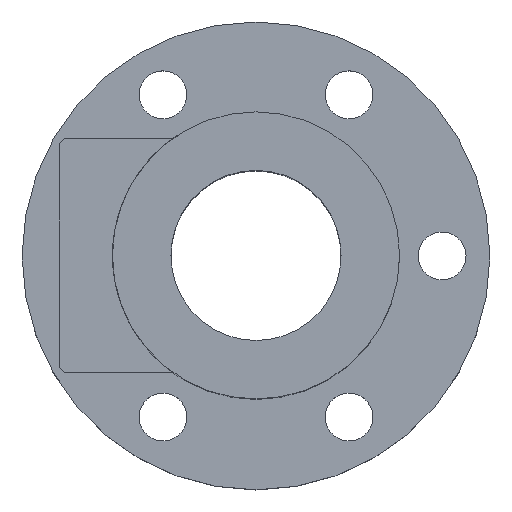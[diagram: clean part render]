
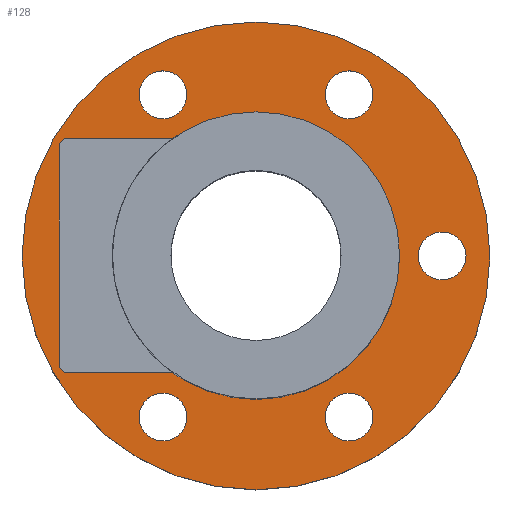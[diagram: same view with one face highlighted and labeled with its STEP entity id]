
A CAD part, top view. The second image highlights one B-rep face of the part: STEP entity #128.
In plain terms, the highlighted planar face has unit normal (0, 0, 1).
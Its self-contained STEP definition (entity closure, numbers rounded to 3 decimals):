
#97=PLANE('',#515);
#112=FACE_OUTER_BOUND('',#251,.T.);
#128=ADVANCED_FACE('',(#203,#204,#205,#112,#206,#207,#208),#97,.T.);
#203=FACE_BOUND('',#248,.T.);
#204=FACE_BOUND('',#249,.T.);
#205=FACE_BOUND('',#250,.T.);
#206=FACE_BOUND('',#252,.T.);
#207=FACE_BOUND('',#253,.T.);
#208=FACE_BOUND('',#254,.T.);
#248=EDGE_LOOP('',(#311));
#249=EDGE_LOOP('',(#312));
#250=EDGE_LOOP('',(#313));
#251=EDGE_LOOP('',(#314));
#252=EDGE_LOOP('',(#315));
#253=EDGE_LOOP('',(#316));
#254=EDGE_LOOP('',(#317));
#311=ORIENTED_EDGE('',*,*,#437,.F.);
#312=ORIENTED_EDGE('',*,*,#438,.F.);
#313=ORIENTED_EDGE('',*,*,#432,.F.);
#314=ORIENTED_EDGE('',*,*,#439,.T.);
#315=ORIENTED_EDGE('',*,*,#440,.F.);
#316=ORIENTED_EDGE('',*,*,#441,.F.);
#317=ORIENTED_EDGE('',*,*,#442,.F.);
#394=VERTEX_POINT('',#694);
#399=VERTEX_POINT('',#705);
#400=VERTEX_POINT('',#707);
#401=VERTEX_POINT('',#709);
#402=VERTEX_POINT('',#711);
#403=VERTEX_POINT('',#713);
#404=VERTEX_POINT('',#715);
#432=EDGE_CURVE('',#394,#394,#476,.T.);
#437=EDGE_CURVE('',#399,#399,#479,.T.);
#438=EDGE_CURVE('',#400,#400,#480,.T.);
#439=EDGE_CURVE('',#401,#401,#481,.T.);
#440=EDGE_CURVE('',#402,#402,#482,.T.);
#441=EDGE_CURVE('',#403,#403,#483,.T.);
#442=EDGE_CURVE('',#404,#404,#484,.T.);
#476=CIRCLE('',#505,27.);
#479=CIRCLE('',#509,4.5);
#480=CIRCLE('',#510,4.5);
#481=CIRCLE('',#511,44.);
#482=CIRCLE('',#512,4.5);
#483=CIRCLE('',#513,4.5);
#484=CIRCLE('',#514,4.5);
#505=AXIS2_PLACEMENT_3D('',#693,#564,#565);
#509=AXIS2_PLACEMENT_3D('',#704,#574,#575);
#510=AXIS2_PLACEMENT_3D('',#706,#576,#577);
#511=AXIS2_PLACEMENT_3D('',#708,#578,#579);
#512=AXIS2_PLACEMENT_3D('',#710,#580,#581);
#513=AXIS2_PLACEMENT_3D('',#712,#582,#583);
#514=AXIS2_PLACEMENT_3D('',#714,#584,#585);
#515=AXIS2_PLACEMENT_3D('',#716,#586,#587);
#564=DIRECTION('',(0.,0.,1.));
#565=DIRECTION('',(1.,0.,0.));
#574=DIRECTION('',(0.,0.,1.));
#575=DIRECTION('',(-0.5,-0.866,0.));
#576=DIRECTION('',(0.,0.,1.));
#577=DIRECTION('',(0.5,0.866,0.));
#578=DIRECTION('',(0.,0.,1.));
#579=DIRECTION('',(1.,0.,0.));
#580=DIRECTION('',(0.,0.,1.));
#581=DIRECTION('',(1.,0.,0.));
#582=DIRECTION('',(0.,0.,1.));
#583=DIRECTION('',(-1.,0.,0.));
#584=DIRECTION('',(0.,0.,1.));
#585=DIRECTION('',(0.5,-0.866,0.));
#586=DIRECTION('',(0.,0.,1.));
#587=DIRECTION('',(1.,0.,0.));
#693=CARTESIAN_POINT('',(0.,0.,16.));
#694=CARTESIAN_POINT('',(27.,0.,16.));
#704=CARTESIAN_POINT('',(17.5,-30.311,16.));
#705=CARTESIAN_POINT('',(15.25,-34.208,16.));
#706=CARTESIAN_POINT('',(-17.5,30.311,16.));
#707=CARTESIAN_POINT('',(-15.25,34.208,16.));
#708=CARTESIAN_POINT('',(0.,0.,16.));
#709=CARTESIAN_POINT('',(44.,0.,16.));
#710=CARTESIAN_POINT('',(17.5,30.311,16.));
#711=CARTESIAN_POINT('',(22.,30.311,16.));
#712=CARTESIAN_POINT('',(-17.5,-30.311,16.));
#713=CARTESIAN_POINT('',(-22.,-30.311,16.));
#714=CARTESIAN_POINT('',(35.,0.,16.));
#715=CARTESIAN_POINT('',(37.25,-3.897,16.));
#716=CARTESIAN_POINT('',(0.,0.,16.));
